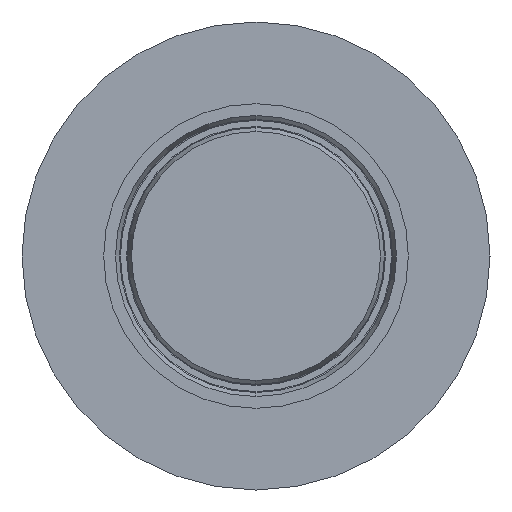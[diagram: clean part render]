
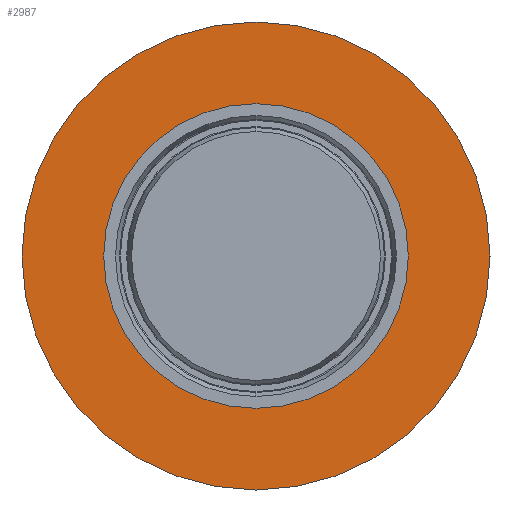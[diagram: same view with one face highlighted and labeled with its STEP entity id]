
A CAD part, left-side view. The second image highlights one B-rep face of the part: STEP entity #2987.
In plain terms, the highlighted planar face has unit normal (-1, 0, 0).
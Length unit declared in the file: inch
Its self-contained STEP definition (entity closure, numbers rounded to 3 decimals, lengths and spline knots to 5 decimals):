
#112 = EDGE_CURVE ( 'NONE', #395, #637, #2714, .T. ) ;
#382 = EDGE_CURVE ( 'NONE', #1421, #3403, #967, .T. ) ;
#395 = VERTEX_POINT ( 'NONE', #2400 ) ;
#408 = AXIS2_PLACEMENT_3D ( 'NONE', #1097, #2974, #1360 ) ;
#440 = CARTESIAN_POINT ( 'NONE',  ( -21.815, 0., 0. ) ) ;
#609 = FACE_BOUND ( 'NONE', #1394, .T. ) ;
#637 = VERTEX_POINT ( 'NONE', #3103 ) ;
#672 = CARTESIAN_POINT ( 'NONE',  ( -21.815, 0., 0. ) ) ;
#704 = DIRECTION ( 'NONE',  ( 0., 0., 1. ) ) ;
#800 = CARTESIAN_POINT ( 'NONE',  ( -21.815, 0., 0. ) ) ;
#870 = AXIS2_PLACEMENT_3D ( 'NONE', #800, #2662, #1063 ) ;
#945 = DIRECTION ( 'NONE',  ( 0., 0., 1. ) ) ;
#967 = CIRCLE ( 'NONE', #870, 8.625 ) ;
#1018 = AXIS2_PLACEMENT_3D ( 'NONE', #1377, #3264, #1650 ) ;
#1033 = EDGE_CURVE ( 'NONE', #637, #395, #1443, .T. ) ;
#1063 = DIRECTION ( 'NONE',  ( 0., 0., 1. ) ) ;
#1097 = CARTESIAN_POINT ( 'NONE',  ( -21.815, 0., 0. ) ) ;
#1212 = CARTESIAN_POINT ( 'NONE',  ( -21.815, 0., 8.625 ) ) ;
#1323 = ORIENTED_EDGE ( 'NONE', *, *, #382, .F. ) ;
#1360 = DIRECTION ( 'NONE',  ( 0., 0., 1. ) ) ;
#1377 = CARTESIAN_POINT ( 'NONE',  ( -21.815, 0., 0. ) ) ;
#1394 = EDGE_LOOP ( 'NONE', ( #1954, #1323 ) ) ;
#1421 = VERTEX_POINT ( 'NONE', #2710 ) ;
#1443 = CIRCLE ( 'NONE', #1018, 13.25 ) ;
#1558 = EDGE_LOOP ( 'NONE', ( #1997, #2082 ) ) ;
#1650 = DIRECTION ( 'NONE',  ( 0., 0., 1. ) ) ;
#1736 = PLANE ( 'NONE',  #2960 ) ;
#1954 = ORIENTED_EDGE ( 'NONE', *, *, #2068, .F. ) ;
#1997 = ORIENTED_EDGE ( 'NONE', *, *, #112, .T. ) ;
#2013 = AXIS2_PLACEMENT_3D ( 'NONE', #440, #2307, #704 ) ;
#2068 = EDGE_CURVE ( 'NONE', #3403, #1421, #2652, .T. ) ;
#2082 = ORIENTED_EDGE ( 'NONE', *, *, #1033, .T. ) ;
#2307 = DIRECTION ( 'NONE',  ( -1., 0., 0. ) ) ;
#2400 = CARTESIAN_POINT ( 'NONE',  ( -21.815, 0., 13.25 ) ) ;
#2542 = DIRECTION ( 'NONE',  ( -1., 0., 0. ) ) ;
#2652 = CIRCLE ( 'NONE', #2013, 8.625 ) ;
#2662 = DIRECTION ( 'NONE',  ( -1., 0., 0. ) ) ;
#2710 = CARTESIAN_POINT ( 'NONE',  ( -21.815, 0., -8.625 ) ) ;
#2714 = CIRCLE ( 'NONE', #408, 13.25 ) ;
#2960 = AXIS2_PLACEMENT_3D ( 'NONE', #672, #2542, #945 ) ;
#2974 = DIRECTION ( 'NONE',  ( -1., 0., 0. ) ) ;
#2987 = ADVANCED_FACE ( 'NONE', ( #3285, #609 ), #1736, .T. ) ;
#3103 = CARTESIAN_POINT ( 'NONE',  ( -21.815, 0., -13.25 ) ) ;
#3264 = DIRECTION ( 'NONE',  ( -1., 0., 0. ) ) ;
#3285 = FACE_OUTER_BOUND ( 'NONE', #1558, .T. ) ;
#3403 = VERTEX_POINT ( 'NONE', #1212 ) ;
